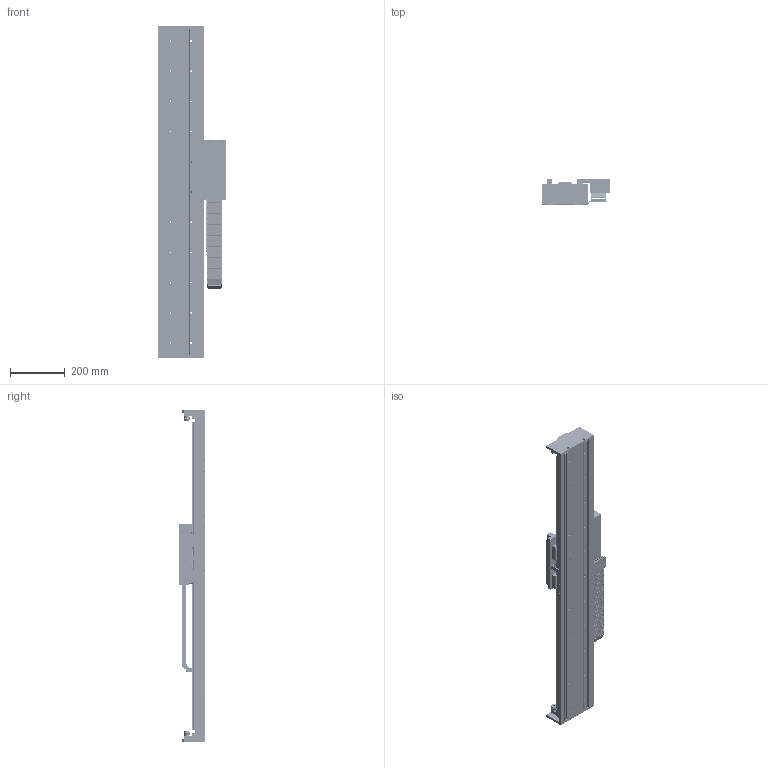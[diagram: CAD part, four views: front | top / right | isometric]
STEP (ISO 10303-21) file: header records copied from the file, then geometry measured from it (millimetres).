
FILE_DESCRIPTION (( 'STEP AP203' ), '1' );
FILE_NAME ('STF20120G-xC1B-Axx Series.STEP', '2007-06-22T21:25:20', ( 'Yaskawa' ), ( 'Yaskawa' ), 'SwSTEP 2.0', 'SolidWorks 2007', '' );
FILE_SCHEMA (( 'CONFIG_CONTROL_DESIGN' ));
Length unit declared in the file: millimetre
Products named in the file (57): RGH22B; STF2035-004 Flag; STF2035-001B F20-120 Carriage; STF2035-003 Renishaw Encoder Mount; STF2035-005-R2 Cable Router; 07.50.028.0_112; 07.50.028.0_113; 07.50.028.0_114; 07.50.028.0_115; STCM-001-R2 Cable Bracket; STF20120G-xC1B-Axx Series; SGLFW-20A120AP; 07.50.028.0_116; Mult-SR15+580LY_007; STCM-002-R2 Cable Assembly Front; STCM-003 Cable Assembly Bottom; STCM-004 Cable Assembly Side; STCM-005-R1 Cable Assembly Cover; STCM-006-R1 Upper E-chain Bracket; Serial Converter; STF2035-006 Endplate; STCM-007 Lower E-Chain Bracket; STF20120G; 07.50.028.0_96; 07.50.028.0_100; 07.50.028.0_97; 07.50.028.0_98; 07.50.028.0_99; 07.50.028.0_101; 07.50.028.0_102; 07.50.028.0_103; 07.50.028.0_104; 07.50.028.0_106; 07.50.028.0_107; 07.50.028.0_108; 07.50.028.0_109; 07.50.028.0_110; 07.50.028.0_117; 07.50.028.0_118; 07.50.028.0_119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
Assembly tree (73 placements, depth 4):
  STF20120G-xC1B-Axx Series
    STCM-007 Lower E-Chain Bracket
    STF2035-006 Endplate  x2
    STF20120G
      07.50.028.0_120
      07.50.028.0_111  x5
      07.50.028.0_114
      07.50.028.0_106
      07.50.028.0_108
      07.50.028.0_115
      07.50.028.0_110
      07.50.028.0_119
      07.50.028.0_97
      07.50.028.0_98
      07.50.028.0_112
      07.50.028.0_103
      07.50.028.0_123
      07.50.028.0_109
      07.50.028.0_117
      07.50.028.0_121
      07.50.028.0_105  x4
      07.50.028.0_101
      07.50.028.0_100
      07.50.028.0_104
      07.50.028.0_113
      07.50.028.0_96
      07.50.028.0_102
      07.50.028.0_116
      07.50.028.0_122
      07.50.028.0_118
      07.50.028.0_99
      07.50.028.0_107
    Complete Carriage
      STF20-120 SSR15W Carriage-R2
        STF2035-003 Renishaw Encoder Mount
        SSR15W Block  x4
        STF2035-002A-R2 F2035 Carriage Horn  x2
        STF2035-005-R2 Cable Router
        SGLFW-20A120AP
        STF2035-004 Flag
        STF2035-001B F20-120 Carriage
        RGH22B
      STCM-R1
        STCM-004 Cable Assembly Side
        STCM-003 Cable Assembly Bottom
        STCM-001-R2 Cable Bracket
        Serial Converter
        STCM-006-R1 Upper E-chain Bracket
        STCM-005-R1 Cable Assembly Cover
        STCM-002-R2 Cable Assembly Front
    STF20BM Base_STF20BM-007
      SGLFM-20540AC  x2
      End Stop with Bumper  x4
        STF2035-007 End Stop
        Bumper-Medium
      Mult-SR15+580LY_007  x2
      STF20BM Base_STF20BM-007
Bounding box: 251.03 x 94.7 x 1209.05 mm (x, y, z)
Volume: 6030455.3 mm3; surface area: 1684897.2 mm2
Topology: 103 solids, 103 shells, 5636 faces, 14677 edges, 9379 vertices
Faces by surface type: plane 2854, cylinder 2316, cone 418, bspline 44, torus 4
Entity records: 128202 total; most frequent: DIRECTION 21653, CARTESIAN_POINT 21299, ORIENTED_EDGE 20150, EDGE_CURVE 10075, AXIS2_PLACEMENT_3D 7569, VERTEX_POINT 6602, VECTOR 6515, LINE 6515
